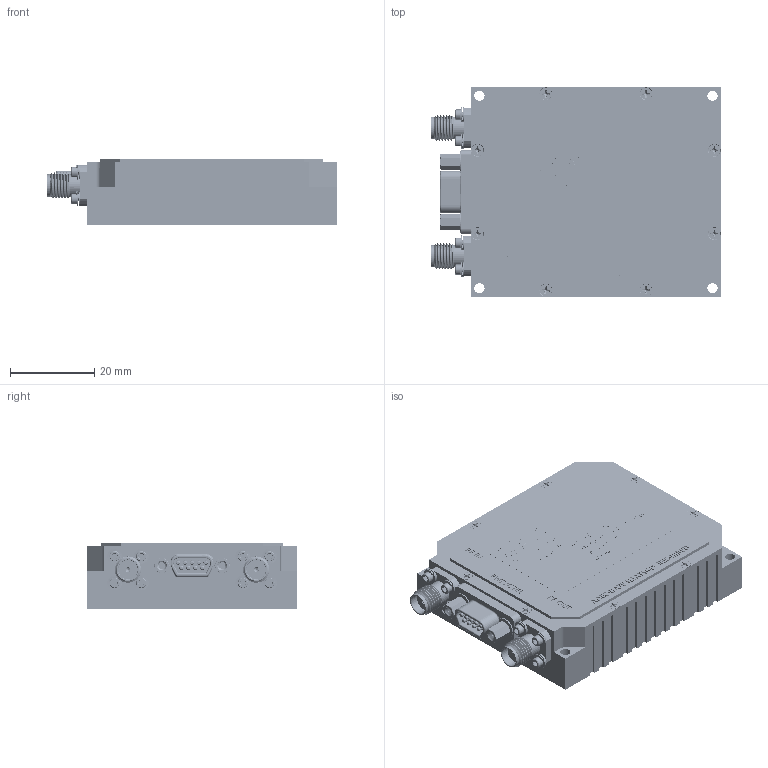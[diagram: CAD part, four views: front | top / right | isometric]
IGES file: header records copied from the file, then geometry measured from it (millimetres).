
Start section: SolidWorks IGES file using analytic representation for surfaces
Global section: file name: \\nuwaves-file01\Allegro_Master_Library\Solidworks_Library\PRODUCTS - 2012\6012-1500 - MINI MOPA\MINI MOPA GEN II\MINI MOPA IGES FOR CUSTOMER.IGS; native system: SolidWorks 2012; preprocessor: SolidWorks 2012; author: bill.landers; date: 160628.152445; units: inch
Bounding box: 68.94 x 49.78 x 15.8 mm (x, y, z)
Surface area: 24793.1 mm2 (no closed solid volume)
Topology: 0 solids, 0 shells, 4510 faces, 55442 edges, 55379 vertices
Faces by surface type: bspline 2788, revolution 1722
